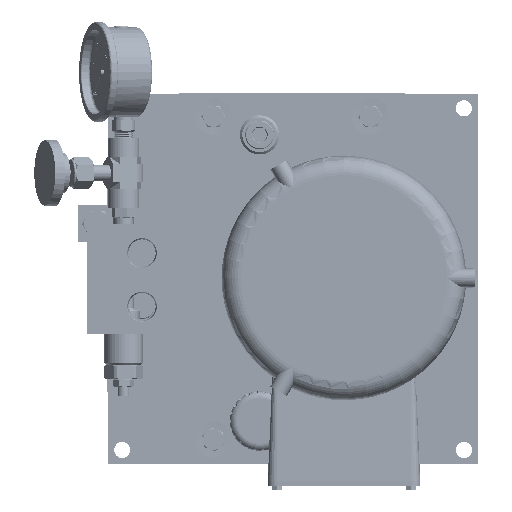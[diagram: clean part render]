
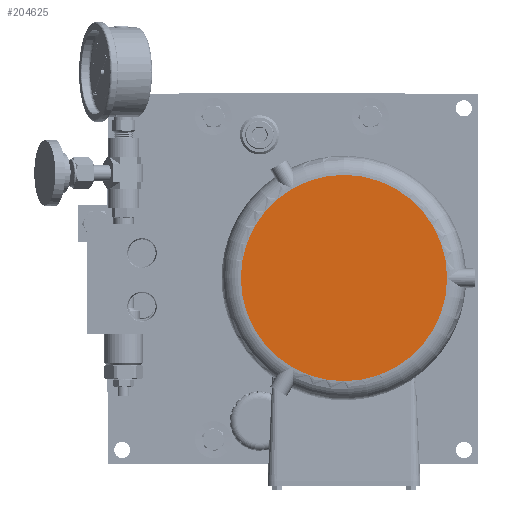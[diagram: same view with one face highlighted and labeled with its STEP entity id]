
A CAD part, left-side view. The second image highlights one B-rep face of the part: STEP entity #204625.
In plain terms, the highlighted planar face has unit normal (-1, 0, 0).
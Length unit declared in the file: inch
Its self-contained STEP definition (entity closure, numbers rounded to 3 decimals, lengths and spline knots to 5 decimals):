
#1229 = CARTESIAN_POINT ( 'NONE',  ( -9.75298, 6.9571, 12.62369 ) ) ;
#2393 = ORIENTED_EDGE ( 'NONE', *, *, #15066, .F. ) ;
#6120 = DIRECTION ( 'NONE',  ( 0., 1., 0. ) ) ;
#15066 = EDGE_CURVE ( 'NONE', #309295, #286481, #160207, .T. ) ;
#15412 = DIRECTION ( 'NONE',  ( 1., 0., 0. ) ) ;
#24441 = EDGE_CURVE ( 'NONE', #75127, #309295, #278622, .T. ) ;
#35375 = CIRCLE ( 'NONE', #93357, 2.79359 ) ;
#42814 = AXIS2_PLACEMENT_3D ( 'NONE', #277646, #304085, #105775 ) ;
#46307 = VERTEX_POINT ( 'NONE', #319859 ) ;
#48356 = CARTESIAN_POINT ( 'NONE',  ( -9.75298, 9.75069, 12.62369 ) ) ;
#55456 = PLANE ( 'NONE',  #146650 ) ;
#75127 = VERTEX_POINT ( 'NONE', #48356 ) ;
#93357 = AXIS2_PLACEMENT_3D ( 'NONE', #1229, #131527, #6120 ) ;
#105775 = DIRECTION ( 'NONE',  ( 0., 1., 0. ) ) ;
#106171 = CARTESIAN_POINT ( 'NONE',  ( -9.75298, 8.3539, 15.04302 ) ) ;
#108328 = CARTESIAN_POINT ( 'NONE',  ( -9.75298, 6.9571, 12.62369 ) ) ;
#131527 = DIRECTION ( 'NONE',  ( 1., 0., 0. ) ) ;
#133662 = DIRECTION ( 'NONE',  ( 0., 1., 0. ) ) ;
#146650 = AXIS2_PLACEMENT_3D ( 'NONE', #108328, #209024, #212269 ) ;
#155058 = DIRECTION ( 'NONE',  ( 1., 0., 0. ) ) ;
#158353 = EDGE_LOOP ( 'NONE', ( #279157, #2393, #202983, #199313 ) ) ;
#160207 = CIRCLE ( 'NONE', #212900, 2.79359 ) ;
#199313 = ORIENTED_EDGE ( 'NONE', *, *, #304247, .F. ) ;
#202983 = ORIENTED_EDGE ( 'NONE', *, *, #24441, .F. ) ;
#203441 = EDGE_CURVE ( 'NONE', #286481, #46307, #35375, .T. ) ;
#204625 = ADVANCED_FACE ( 'NONE', ( #280193 ), #55456, .F. ) ;
#209024 = DIRECTION ( 'NONE',  ( 1., 0., 0. ) ) ;
#212269 = DIRECTION ( 'NONE',  ( 0., 1., 0. ) ) ;
#212900 = AXIS2_PLACEMENT_3D ( 'NONE', #268108, #15412, #317678 ) ;
#268108 = CARTESIAN_POINT ( 'NONE',  ( -9.75298, 6.9571, 12.62369 ) ) ;
#269695 = CIRCLE ( 'NONE', #42814, 2.79359 ) ;
#277646 = CARTESIAN_POINT ( 'NONE',  ( -9.75298, 6.9571, 12.62369 ) ) ;
#278622 = CIRCLE ( 'NONE', #283842, 2.79359 ) ;
#279157 = ORIENTED_EDGE ( 'NONE', *, *, #203441, .F. ) ;
#280193 = FACE_OUTER_BOUND ( 'NONE', #158353, .T. ) ;
#283842 = AXIS2_PLACEMENT_3D ( 'NONE', #284104, #155058, #133662 ) ;
#284104 = CARTESIAN_POINT ( 'NONE',  ( -9.75298, 6.9571, 12.62369 ) ) ;
#286481 = VERTEX_POINT ( 'NONE', #297491 ) ;
#297491 = CARTESIAN_POINT ( 'NONE',  ( -9.75298, 4.16351, 12.62369 ) ) ;
#304085 = DIRECTION ( 'NONE',  ( 1., 0., 0. ) ) ;
#304247 = EDGE_CURVE ( 'NONE', #46307, #75127, #269695, .T. ) ;
#309295 = VERTEX_POINT ( 'NONE', #106171 ) ;
#317678 = DIRECTION ( 'NONE',  ( 0., 1., 0. ) ) ;
#319859 = CARTESIAN_POINT ( 'NONE',  ( -9.75298, 8.3539, 10.20437 ) ) ;
